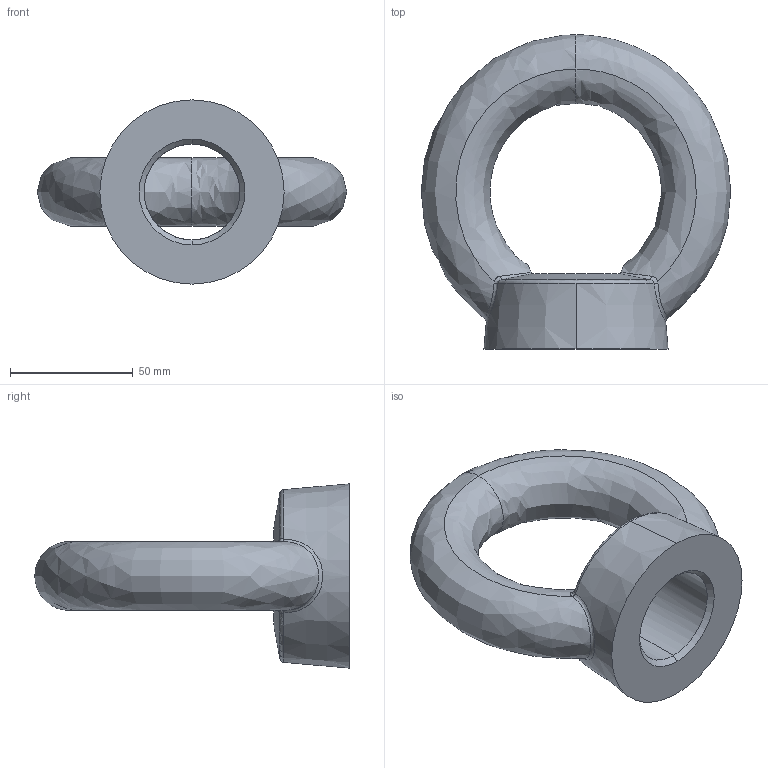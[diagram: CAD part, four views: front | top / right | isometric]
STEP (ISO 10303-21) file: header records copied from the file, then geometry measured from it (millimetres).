
FILE_DESCRIPTION (( 'STEP AP203' ), '1' );
FILE_NAME ('P4041.390-ZP.step', '2023-04-16T08:01:40', ( '' ), ( '' ), 'SwSTEP 2.0', 'SolidWorks 2019', '' );
FILE_SCHEMA (( 'CONFIG_CONTROL_DESIGN' ));
Length unit declared in the file: millimetre
Products named in the file (1): P4041.390-ZP
Bounding box: 126 x 128 x 75 mm (x, y, z)
Volume: 235739.7 mm3; surface area: 36327.6 mm2
Topology: 1 solids, 1 shells, 27 faces, 69 edges, 41 vertices
Faces by surface type: bspline 14, cone 7, torus 3, cylinder 2, plane 1
Entity records: 3282 total; most frequent: CARTESIAN_POINT 2656, ORIENTED_EDGE 138, DIRECTION 87, EDGE_CURVE 69, VERTEX_POINT 41, AXIS2_PLACEMENT_3D 40, B_SPLINE_CURVE_WITH_KNOTS 34, EDGE_LOOP 28
